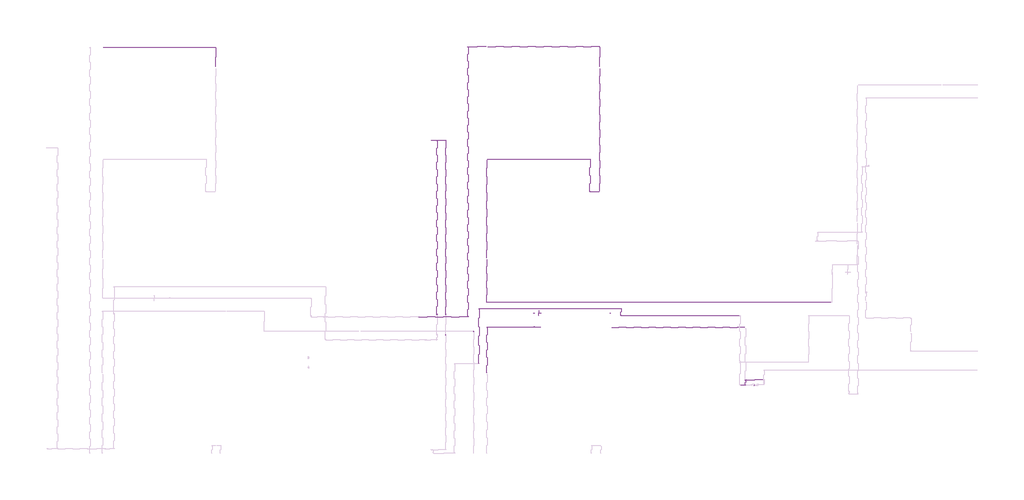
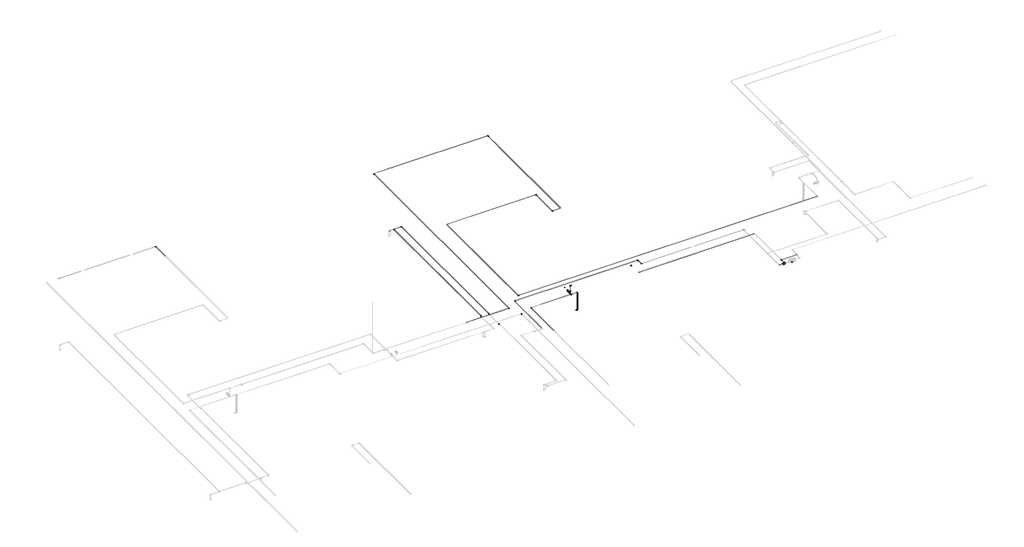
# One storey, part 4 of 6: 35 cable carrier segments, 29 cable carrier fittings, 2 alarms, 1 proxy.
"""IFC4 building model written with IfcOpenShell, lengths in millimetres."""

from ifc_helpers import new_model, si_unit, point, frame, frame_2d, origin, place, context, project, spatial, circle_curve, trimmed, segment, composite_curve, outline, extrude, transform, mapped, element, save
from components import alarm_4b7e8fd8, alarm_12v_26ah_d63bb5e3, electrical_equipment_0829c287, cable_carrier_fitting_69f1a801, cable_carrier_fitting_8122f9af, cable_carrier_fitting_8fd13dfc

model = new_model("IFC4")

# Units and contexts
model_context = context("Model", 3, world=origin())
ifc_project = project(units=[si_unit("LENGTHUNIT", "METRE", prefix="MILLI")], contexts=[model_context])

# Site, building, storey
site = spatial("IfcSite", under=ifc_project)
building = spatial("IfcBuilding", under=site)
storey = spatial("IfcBuildingStorey", under=building, Name="Подвальный этаж", Elevation=-3000.0)

# Alarms
placement = place(None, origin())
alarm_shape = alarm_4b7e8fd8(model_context)
element("IfcAlarm", 1, ObjectType="RBZ_Оповещатель_Световой_Рубеж_ОПОП1-R3(грань) : ОПОП 1-R3 \"Выход\"", at=placement, inside=storey, context=model_context, shape_type="MappedRepresentation", body=[
    mapped(alarm_shape, transform((-10172.3240021, 4344.6370105, -700.0), x_axis=(0.0, -1.0, 0.0), y_axis=(0.0, 0.0, 1.0), z_axis=(-1.0, 0.0, 0.0))),
])
alarm_12v_26ah_shape = alarm_12v_26ah_d63bb5e3(model_context)
element("IfcAlarm", 2, ObjectType="АКБ : 12V-7Ah", at=placement, inside=storey, context=model_context, shape_type="MappedRepresentation", body=[
    mapped(alarm_12v_26ah_shape, transform((1975.3958444, 264.6370105, -446.4079999), x_axis=(-1.0, 0.0, 0.0), y_axis=(0.0, -1.0, 0.0), z_axis=(0.0, 0.0, 1.0))),
])

# Proxy
electrical_equipment_shape = electrical_equipment_0829c287(model_context)
element("IfcBuildingElementProxy", 3, Name="RBZ_МодульРелейный_Рубеж_РМ-1К(4К) _прот.R3 : РМ-4К прот. R3", ObjectType="RBZ_МодульРелейный_Рубеж_РМ-1К(4К) _прот.R3 : РМ-4К прот. R3", at=placement, inside=storey, context=model_context, shape_type="MappedRepresentation", body=[
    mapped(electrical_equipment_shape, transform((1460.1759979, 281.887011, -423.0), x_axis=(1.0, 0.0, 0.0), y_axis=(0.0, 1.0, 0.0), z_axis=(0.0, 0.0, 1.0))),
])

# Cable carrier fittings
cable_carrier_fitting_shape = cable_carrier_fitting_69f1a801(model_context)
element("IfcCableCarrierFitting", 4, ObjectType="ADSK_Поворот_Минимальный размер : Неспецифицируемый", at=placement, inside=storey, context=model_context, shape_type="MappedRepresentation", body=[
    mapped(cable_carrier_fitting_shape, transform((-13842.3240021, 3324.6370105, -310.7), x_axis=(0.0, 1.0, 0.0), y_axis=(-1.0, 0.0, 0.0), z_axis=(0.0, 0.0, 1.0))),
])
element("IfcCableCarrierFitting", 5, ObjectType="ADSK_Поворот_Минимальный размер : Неспецифицируемый", at=placement, inside=storey, context=model_context, shape_type="MappedRepresentation", body=[
    mapped(cable_carrier_fitting_shape, transform((-14172.3240021, 4133.1922381, -310.7), x_axis=(1.0, 0.0, 0.0), y_axis=(0.0, 1.0, 0.0), z_axis=(0.0, 0.0, 1.0))),
])
element("IfcCableCarrierFitting", 6, ObjectType="ADSK_Поворот_Минимальный размер : Неспецифицируемый", at=placement, inside=storey, context=model_context, shape_type="MappedRepresentation", body=[
    mapped(cable_carrier_fitting_shape, transform((-10075.1241936, 4344.6370105, -700.0), x_axis=(1.0, 0.0, 0.0), y_axis=(0.0, 0.0, 1.0), z_axis=(0.0, -1.0, 0.0))),
])
element("IfcCableCarrierFitting", 7, ObjectType="ADSK_Поворот_Минимальный размер : Неспецифицируемый", at=placement, inside=storey, context=model_context, shape_type="MappedRepresentation", body=[
    mapped(cable_carrier_fitting_shape, transform((-10075.1241965, 3564.6370105, -1500.0), x_axis=(1.0, 0.0, 0.0), y_axis=(0.0, 0.0, 1.0), z_axis=(0.0, -1.0, 0.0))),
])
element("IfcCableCarrierFitting", 8, ObjectType="ADSK_Поворот_Минимальный размер : Неспецифицируемый", at=placement, inside=storey, context=model_context, shape_type="MappedRepresentation", body=[
    mapped(cable_carrier_fitting_shape, transform((-13092.3240021, 3564.6370105, -310.7), x_axis=(-1.0, 0.0, 0.0), y_axis=(0.0, -1.0, 0.0), z_axis=(0.0, 0.0, 1.0))),
])
element("IfcCableCarrierFitting", 9, ObjectType="ADSK_Поворот_Минимальный размер : Неспецифицируемый", at=placement, inside=storey, context=model_context, shape_type="MappedRepresentation", body=[
    mapped(cable_carrier_fitting_shape, transform((-10075.1241965, 3564.6370105, -310.7), x_axis=(0.0, 0.0, 1.0), y_axis=(-1.0, 0.0, 0.0), z_axis=(0.0, -1.0, 0.0))),
])
element("IfcCableCarrierFitting", 10, ObjectType="ADSK_Поворот_Минимальный размер : Неспецифицируемый", at=placement, inside=storey, context=model_context, shape_type="MappedRepresentation", body=[
    mapped(cable_carrier_fitting_shape, transform((-10462.3240021, 4344.6370105, -310.700209), x_axis=(-0.9999999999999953, 0.0, -9.651311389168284e-08), y_axis=(0.0, -1.0, 0.0), z_axis=(-9.651311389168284e-08, 0.0, 0.9999999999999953))),
])
element("IfcCableCarrierFitting", 11, ObjectType="ADSK_Поворот_Минимальный размер : Неспецифицируемый", at=placement, inside=storey, context=model_context, shape_type="MappedRepresentation", body=[
    mapped(cable_carrier_fitting_shape, transform((-6132.3240021, 4344.6370105, -310.699791), x_axis=(0.0, 0.9999999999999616, 2.773071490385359e-07), y_axis=(-0.9999999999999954, 0.0, -9.651313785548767e-08), z_axis=(-9.651313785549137e-08, -2.773071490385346e-07, 0.9999999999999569))),
])
element("IfcCableCarrierFitting", 12, ObjectType="ADSK_Поворот_Минимальный размер : Неспецифицируемый", at=placement, inside=storey, context=model_context, shape_type="MappedRepresentation", body=[
    mapped(cable_carrier_fitting_shape, transform((-28372.3240021, 19322.1370105, -310.7), x_axis=(0.0, 1.0, 0.0), y_axis=(-1.0, 0.0, 0.0), z_axis=(0.0, 0.0, 1.0))),
])
element("IfcCableCarrierFitting", 13, ObjectType="ADSK_Поворот_Минимальный размер : Неспецифицируемый", at=placement, inside=storey, context=model_context, shape_type="MappedRepresentation", body=[
    mapped(cable_carrier_fitting_shape, transform((-14172.3240021, 19368.6370105, -310.7), x_axis=(-1.0, 0.0, 0.0), y_axis=(0.0, -1.0, 0.0), z_axis=(0.0, 0.0, 1.0))),
])
element("IfcCableCarrierFitting", 14, ObjectType="ADSK_Поворот_Минимальный размер : Неспецифицируемый", at=placement, inside=storey, context=model_context, shape_type="MappedRepresentation", body=[
    mapped(cable_carrier_fitting_shape, transform((-6750.048085, 19368.6370105, -310.7), x_axis=(0.0, 1.0, 0.0), y_axis=(-1.0, 0.0, 0.0), z_axis=(0.0, 0.0, 1.0))),
])
element("IfcCableCarrierFitting", 15, ObjectType="ADSK_Поворот_Минимальный размер : Неспецифицируемый", at=placement, inside=storey, context=model_context, shape_type="MappedRepresentation", body=[
    mapped(cable_carrier_fitting_shape, transform((-7296.548085, 11184.6000551, -310.7), x_axis=(0.0, -1.0, 0.0), y_axis=(1.0, 0.0, 0.0), z_axis=(0.0, 0.0, 1.0))),
])
element("IfcCableCarrierFitting", 16, ObjectType="ADSK_Поворот_Минимальный размер : Неспецифицируемый", at=placement, inside=storey, context=model_context, shape_type="MappedRepresentation", body=[
    mapped(cable_carrier_fitting_shape, transform((-7296.548085, 13022.1370105, -310.7), x_axis=(0.0, 1.0, 0.0), y_axis=(-1.0, 0.0, 0.0), z_axis=(0.0, 0.0, 1.0))),
])
element("IfcCableCarrierFitting", 17, ObjectType="ADSK_Поворот_Минимальный размер : Неспецифицируемый", at=placement, inside=storey, context=model_context, shape_type="MappedRepresentation", body=[
    mapped(cable_carrier_fitting_shape, transform((-13110.048085, 4962.1370105, -310.7), x_axis=(0.0, -1.0, 0.0), y_axis=(1.0, 0.0, 0.0), z_axis=(0.0, 0.0, 1.0))),
])
element("IfcCableCarrierFitting", 18, ObjectType="ADSK_Поворот_Минимальный размер : Неспецифицируемый", at=placement, inside=storey, context=model_context, shape_type="MappedRepresentation", body=[
    mapped(cable_carrier_fitting_shape, transform((1460.1759979, 299.1370112, -310.7), x_axis=(0.0, 0.0, 1.0), y_axis=(0.0, 1.0, 0.0), z_axis=(-1.0, 0.0, 0.0))),
])
element("IfcCableCarrierFitting", 19, ObjectType="ADSK_Поворот_Минимальный размер : Неспецифицируемый", at=placement, inside=storey, context=model_context, shape_type="MappedRepresentation", body=[
    mapped(cable_carrier_fitting_shape, transform((-15921.6725748, 14089.6370105, -310.7), x_axis=(0.0, 1.0, 0.0), y_axis=(-1.0, 0.0, 0.0), z_axis=(0.0, 0.0, 1.0))),
])
element("IfcCableCarrierFitting", 20, ObjectType="ADSK_Поворот_Минимальный размер : Неспецифицируемый", at=placement, inside=storey, context=model_context, shape_type="MappedRepresentation", body=[
    mapped(cable_carrier_fitting_shape, transform((-15421.6240021, 14089.6370105, -310.7), x_axis=(0.0, 1.0, 0.0), y_axis=(-1.0, 0.0, 0.0), z_axis=(0.0, 0.0, 1.0))),
])
element("IfcCableCarrierFitting", 21, ObjectType="ADSK_Поворот_Минимальный размер : Неспецифицируемый", at=placement, inside=storey, context=model_context, shape_type="MappedRepresentation", body=[
    mapped(cable_carrier_fitting_shape, transform((-5552.3240021, 4204.6370105, -310.7), x_axis=(0.0, -1.0, 0.0), y_axis=(1.0, 0.0, 0.0), z_axis=(0.0, 0.0, 1.0))),
])
element("IfcCableCarrierFitting", 22, ObjectType="ADSK_Поворот_Минимальный размер : Неспецифицируемый", at=placement, inside=storey, context=model_context, shape_type="MappedRepresentation", body=[
    mapped(cable_carrier_fitting_shape, transform((-5552.3240021, 4604.6370105, -310.7), x_axis=(0.0, 1.0, 0.0), y_axis=(-1.0, 0.0, 0.0), z_axis=(0.0, 0.0, 1.0))),
])
element("IfcCableCarrierFitting", 23, ObjectType="ADSK_Поворот_Минимальный размер : Неспецифицируемый", at=placement, inside=storey, context=model_context, shape_type="MappedRepresentation", body=[
    mapped(cable_carrier_fitting_shape, transform((-13552.3240021, 4604.6370105, -310.7), x_axis=(-1.0, 0.0, 0.0), y_axis=(0.0, -1.0, 0.0), z_axis=(0.0, 0.0, 1.0))),
])
cable_carrier_fitting_2_shape = cable_carrier_fitting_8122f9af(model_context)
element("IfcCableCarrierFitting", 24, ObjectType="ADSK_Поворот_Минимальный размер : Неспецифицируемый", at=placement, inside=storey, context=model_context, shape_type="MappedRepresentation", body=[
    mapped(cable_carrier_fitting_2_shape, transform((-15921.6725748, 4309.6370105, -310.7), x_axis=(0.0, -1.0, 0.0), y_axis=(0.0, 0.0, -1.0), z_axis=(1.0, 0.0, 0.0))),
])
element("IfcCableCarrierFitting", 25, ObjectType="ADSK_Поворот_Минимальный размер : Неспецифицируемый", at=placement, inside=storey, context=model_context, shape_type="MappedRepresentation", body=[
    mapped(cable_carrier_fitting_2_shape, transform((-15921.6725748, 4270.3370105, -350.0), x_axis=(0.0, -0.7071067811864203, -0.7071067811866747), y_axis=(0.0, -0.7071067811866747, 0.7071067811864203), z_axis=(-1.0, 0.0, 0.0))),
])
element("IfcCableCarrierFitting", 26, ObjectType="ADSK_Поворот_Минимальный размер : Неспецифицируемый", at=placement, inside=storey, context=model_context, shape_type="MappedRepresentation", body=[
    mapped(cable_carrier_fitting_2_shape, transform((-15421.6240021, 4289.6370105, -310.7), x_axis=(0.0, -1.0, 0.0), y_axis=(0.0, 0.0, -1.0), z_axis=(1.0, 0.0, 0.0))),
])
element("IfcCableCarrierFitting", 27, ObjectType="ADSK_Поворот_Минимальный размер : Неспецифицируемый", at=placement, inside=storey, context=model_context, shape_type="MappedRepresentation", body=[
    mapped(cable_carrier_fitting_2_shape, transform((-15421.6240021, 4250.3370105, -350.0), x_axis=(0.0, -0.7071067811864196, -0.7071067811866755), y_axis=(0.0, -0.7071067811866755, 0.7071067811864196), z_axis=(-1.0, 0.0, 0.0))),
])
element("IfcCableCarrierFitting", 28, ObjectType="ADSK_Поворот_Минимальный размер : Неспецифицируемый", at=placement, inside=storey, context=model_context, shape_type="MappedRepresentation", body=[
    mapped(cable_carrier_fitting_2_shape, transform((-15421.6240021, 3149.6370105, -350.0), x_axis=(0.0, -1.0, 0.0), y_axis=(0.0, 0.0, 1.0), z_axis=(-1.0, 0.0, 0.0))),
])
element("IfcCableCarrierFitting", 29, ObjectType="ADSK_Поворот_Минимальный размер : Неспецифицируемый", at=placement, inside=storey, context=model_context, shape_type="MappedRepresentation", body=[
    mapped(cable_carrier_fitting_2_shape, transform((-15421.6240021, 3110.3370105, -310.7), x_axis=(0.0, -0.7071067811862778, 0.7071067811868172), y_axis=(0.0, -0.7071067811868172, -0.7071067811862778), z_axis=(1.0, 0.0, 0.0))),
])
cable_carrier_fitting_3_shape = cable_carrier_fitting_8fd13dfc(model_context)
element("IfcCableCarrierFitting", 30, ObjectType="ADSK_Тройник : ПВХ", at=placement, inside=storey, context=model_context, shape_type="MappedRepresentation", body=[
    mapped(cable_carrier_fitting_3_shape, transform((-10075.1241965, 4344.6370105, -310.7001716), x_axis=(-0.9999999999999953, 0.0, -9.651313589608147e-08), y_axis=(-9.651313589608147e-08, 0.0, 0.9999999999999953), z_axis=(0.0, 1.0, 0.0))),
])
element("IfcCableCarrierFitting", 31, ObjectType="ADSK_Тройник : ПВХ", at=placement, inside=storey, context=model_context, shape_type="MappedRepresentation", body=[
    mapped(cable_carrier_fitting_3_shape, transform((-10462.3240021, 3564.6370105, -310.7), x_axis=(-1.0, 0.0, 0.0), y_axis=(0.0, -1.0, 0.0), z_axis=(0.0, 0.0, 1.0))),
])
element("IfcCableCarrierFitting", 32, ObjectType="ADSK_Тройник : ПВХ", at=placement, inside=storey, context=model_context, shape_type="MappedRepresentation", body=[
    mapped(cable_carrier_fitting_3_shape, transform((1460.1759979, 587.1370105, -310.7), x_axis=(0.0, 1.0, 0.0), y_axis=(-1.0, 0.0, 0.0), z_axis=(0.0, 0.0, 1.0))),
])

# Cable carrier segments
element("IfcCableCarrierSegment", 33, ObjectType="Гофрированная труба", at=placement, inside=storey, context=model_context, shape_type="SweptSolid", body=[
    extrude(outline(composite_curve([segment(trimmed(circle_curve(frame_2d((19322.1370105, -310.7)), 10.0), [point((19332.1370105, -310.7))], [point((19322.1370105, -320.7))], False, "CARTESIAN"), True, "CONTINUOUS"), segment(trimmed(circle_curve(frame_2d((19322.1370105, -310.7)), 10.0), [point((19322.1370105, -320.7))], [point((19312.1370105, -310.7))], False, "CARTESIAN"), True, "CONTINUOUS"), segment(trimmed(circle_curve(frame_2d((19322.1370105, -310.7)), 10.0), [point((19312.1370105, -310.7))], [point((19322.1370105, -300.7))], False, "CARTESIAN"), True, "CONTINUOUS"), segment(trimmed(circle_curve(frame_2d((19322.1370105, -310.7)), 10.0), [point((19322.1370105, -300.7))], [point((19332.1370105, -310.7))], False, "CARTESIAN"), True, "CONTINUOUS")], self_intersect=False)), frame((-34685.8240021, 0.0, 0.0), z_axis=(1.0, 0.0, 0.0), x_axis=(0.0, 1.0, 0.0)), (0.0, 0.0, 1.0), 6292.5),
])
element("IfcCableCarrierSegment", 34, ObjectType="Гофрированная труба", at=placement, inside=storey, context=model_context, shape_type="SweptSolid", body=[
    extrude(outline(composite_curve([segment(trimmed(circle_curve(frame_2d((-310.7, -28372.3240021)), 10.0), [point((-310.7, -28382.3240021))], [point((-320.7, -28372.3240021))], False, "CARTESIAN"), True, "CONTINUOUS"), segment(trimmed(circle_curve(frame_2d((-310.7, -28372.3240021)), 10.0), [point((-320.7, -28372.3240021))], [point((-310.7, -28362.3240021))], False, "CARTESIAN"), True, "CONTINUOUS"), segment(trimmed(circle_curve(frame_2d((-310.7, -28372.3240021)), 10.0), [point((-310.7, -28362.3240021))], [point((-300.7, -28372.3240021))], False, "CARTESIAN"), True, "CONTINUOUS"), segment(trimmed(circle_curve(frame_2d((-310.7, -28372.3240021)), 10.0), [point((-300.7, -28372.3240021))], [point((-310.7, -28382.3240021))], False, "CARTESIAN"), True, "CONTINUOUS")], self_intersect=False)), frame((0.0, 18231.1000551, 0.0), z_axis=(0.0, 1.0, 0.0), x_axis=(0.0, 0.0, 1.0)), (0.0, 0.0, 1.0), 1070.0369555),
])
element("IfcCableCarrierSegment", 35, ObjectType="Гофрированная труба", at=placement, inside=storey, context=model_context, shape_type="SweptSolid", body=[
    extrude(outline(composite_curve([segment(trimmed(circle_curve(frame_2d((4133.1922381, -310.7)), 10.0), [point((4143.1922381, -310.7))], [point((4133.1922381, -320.7))], False, "CARTESIAN"), True, "CONTINUOUS"), segment(trimmed(circle_curve(frame_2d((4133.1922381, -310.7)), 10.0), [point((4133.1922381, -320.7))], [point((4123.1922381, -310.7))], False, "CARTESIAN"), True, "CONTINUOUS"), segment(trimmed(circle_curve(frame_2d((4133.1922381, -310.7)), 10.0), [point((4123.1922381, -310.7))], [point((4133.1922381, -300.7))], False, "CARTESIAN"), True, "CONTINUOUS"), segment(trimmed(circle_curve(frame_2d((4133.1922381, -310.7)), 10.0), [point((4133.1922381, -300.7))], [point((4143.1922381, -310.7))], False, "CARTESIAN"), True, "CONTINUOUS")], self_intersect=False)), frame((-16931.3240021, 0.0, 0.0), z_axis=(1.0, 0.0, 0.0), x_axis=(0.0, 1.0, 0.0)), (0.0, 0.0, 1.0), 2738.0),
])
element("IfcCableCarrierSegment", 36, ObjectType="Гофрированная труба", at=placement, inside=storey, context=model_context, shape_type="SweptSolid", body=[
    extrude(outline(composite_curve([segment(trimmed(circle_curve(frame_2d((19368.6370105, -310.7)), 10.0), [point((19358.6370105, -310.7))], [point((19368.6370105, -300.7))], False, "CARTESIAN"), True, "CONTINUOUS"), segment(trimmed(circle_curve(frame_2d((19368.6370105, -310.7)), 10.0), [point((19368.6370105, -300.7))], [point((19378.6370105, -310.7))], False, "CARTESIAN"), True, "CONTINUOUS"), segment(trimmed(circle_curve(frame_2d((19368.6370105, -310.7)), 10.0), [point((19378.6370105, -310.7))], [point((19368.6370105, -320.7))], False, "CARTESIAN"), True, "CONTINUOUS"), segment(trimmed(circle_curve(frame_2d((19368.6370105, -310.7)), 10.0), [point((19368.6370105, -320.7))], [point((19358.6370105, -310.7))], False, "CARTESIAN"), True, "CONTINUOUS")], self_intersect=False)), frame((-14151.3240021, 0.0, 0.0), z_axis=(1.0, 0.0, 0.0), x_axis=(0.0, 1.0, 0.0)), (0.0, 0.0, 1.0), 1012.5),
])
element("IfcCableCarrierSegment", 37, ObjectType="Гофрированная труба", at=placement, inside=storey, context=model_context, shape_type="SweptSolid", body=[
    extrude(outline(composite_curve([segment(trimmed(circle_curve(frame_2d((-310.7, -14172.3240021)), 10.0), [point((-310.7, -14182.3240021))], [point((-320.7, -14172.3240021))], False, "CARTESIAN"), True, "CONTINUOUS"), segment(trimmed(circle_curve(frame_2d((-310.7, -14172.3240021)), 10.0), [point((-320.7, -14172.3240021))], [point((-310.7, -14162.3240021))], False, "CARTESIAN"), True, "CONTINUOUS"), segment(trimmed(circle_curve(frame_2d((-310.7, -14172.3240021)), 10.0), [point((-310.7, -14162.3240021))], [point((-300.7, -14172.3240021))], False, "CARTESIAN"), True, "CONTINUOUS"), segment(trimmed(circle_curve(frame_2d((-310.7, -14172.3240021)), 10.0), [point((-300.7, -14172.3240021))], [point((-310.7, -14182.3240021))], False, "CARTESIAN"), True, "CONTINUOUS")], self_intersect=False)), frame((0.0, 4154.1922381, 0.0), z_axis=(0.0, 1.0, 0.0), x_axis=(0.0, 0.0, 1.0)), (0.0, 0.0, 1.0), 15193.4447724),
])
element("IfcCableCarrierSegment", 38, ObjectType="Гофрированная труба", at=placement, inside=storey, context=model_context, shape_type="SweptSolid", body=[
    extrude(outline(composite_curve([segment(trimmed(circle_curve(frame_2d((19368.6370105, -310.7)), 10.0), [point((19378.6370105, -310.7))], [point((19368.6370105, -320.7))], False, "CARTESIAN"), True, "CONTINUOUS"), segment(trimmed(circle_curve(frame_2d((19368.6370105, -310.7)), 10.0), [point((19368.6370105, -320.7))], [point((19358.6370105, -310.7))], False, "CARTESIAN"), True, "CONTINUOUS"), segment(trimmed(circle_curve(frame_2d((19368.6370105, -310.7)), 10.0), [point((19358.6370105, -310.7))], [point((19368.6370105, -300.7))], False, "CARTESIAN"), True, "CONTINUOUS"), segment(trimmed(circle_curve(frame_2d((19368.6370105, -310.7)), 10.0), [point((19368.6370105, -300.7))], [point((19378.6370105, -310.7))], False, "CARTESIAN"), True, "CONTINUOUS")], self_intersect=False)), frame((-13045.8240021, 0.0, 0.0), z_axis=(1.0, 0.0, 0.0), x_axis=(0.0, 1.0, 0.0)), (0.0, 0.0, 1.0), 6274.7759171),
])
element("IfcCableCarrierSegment", 39, ObjectType="Гофрированная труба", at=placement, inside=storey, context=model_context, shape_type="SweptSolid", body=[
    extrude(outline(composite_curve([segment(trimmed(circle_curve(frame_2d((-310.7, -6750.048085)), 10.0), [point((-310.7, -6740.048085))], [point((-300.7, -6750.048085))], False, "CARTESIAN"), True, "CONTINUOUS"), segment(trimmed(circle_curve(frame_2d((-310.7, -6750.048085)), 10.0), [point((-300.7, -6750.048085))], [point((-310.7, -6760.048085))], False, "CARTESIAN"), True, "CONTINUOUS"), segment(trimmed(circle_curve(frame_2d((-310.7, -6750.048085)), 10.0), [point((-310.7, -6760.048085))], [point((-320.7, -6750.048085))], False, "CARTESIAN"), True, "CONTINUOUS"), segment(trimmed(circle_curve(frame_2d((-310.7, -6750.048085)), 10.0), [point((-320.7, -6750.048085))], [point((-310.7, -6740.048085))], False, "CARTESIAN"), True, "CONTINUOUS")], self_intersect=False)), frame((0.0, 18231.1000551, 0.0), z_axis=(0.0, 1.0, 0.0), x_axis=(0.0, 0.0, 1.0)), (0.0, 0.0, 1.0), 1116.5369555),
])
element("IfcCableCarrierSegment", 40, ObjectType="Гофрированная труба", at=placement, inside=storey, context=model_context, shape_type="SweptSolid", body=[
    extrude(outline(composite_curve([segment(trimmed(circle_curve(frame_2d((-310.7, -6750.048085)), 10.0), [point((-310.7, -6740.048085))], [point((-300.7, -6750.048085))], False, "CARTESIAN"), True, "CONTINUOUS"), segment(trimmed(circle_curve(frame_2d((-310.7, -6750.048085)), 10.0), [point((-300.7, -6750.048085))], [point((-310.7, -6760.048085))], False, "CARTESIAN"), True, "CONTINUOUS"), segment(trimmed(circle_curve(frame_2d((-310.7, -6750.048085)), 10.0), [point((-310.7, -6760.048085))], [point((-320.7, -6750.048085))], False, "CARTESIAN"), True, "CONTINUOUS"), segment(trimmed(circle_curve(frame_2d((-310.7, -6750.048085)), 10.0), [point((-320.7, -6750.048085))], [point((-310.7, -6740.048085))], False, "CARTESIAN"), True, "CONTINUOUS")], self_intersect=False)), frame((0.0, 11231.1000551, 0.0), z_axis=(0.0, 1.0, 0.0), x_axis=(0.0, 0.0, 1.0)), (0.0, 0.0, 1.0), 6907.0),
])
element("IfcCableCarrierSegment", 41, ObjectType="Гофрированная труба", at=placement, inside=storey, context=model_context, shape_type="SweptSolid", body=[
    extrude(outline(composite_curve([segment(trimmed(circle_curve(frame_2d((11184.6000551, -310.7)), 10.0), [point((11174.6000551, -310.7))], [point((11184.6000551, -300.7))], False, "CARTESIAN"), True, "CONTINUOUS"), segment(trimmed(circle_curve(frame_2d((11184.6000551, -310.7)), 10.0), [point((11184.6000551, -300.7))], [point((11194.6000551, -310.7))], False, "CARTESIAN"), True, "CONTINUOUS"), segment(trimmed(circle_curve(frame_2d((11184.6000551, -310.7)), 10.0), [point((11194.6000551, -310.7))], [point((11184.6000551, -320.7))], False, "CARTESIAN"), True, "CONTINUOUS"), segment(trimmed(circle_curve(frame_2d((11184.6000551, -310.7)), 10.0), [point((11184.6000551, -320.7))], [point((11174.6000551, -310.7))], False, "CARTESIAN"), True, "CONTINUOUS")], self_intersect=False)), frame((-7275.548085, 0.0, 0.0), z_axis=(1.0, 0.0, 0.0), x_axis=(0.0, 1.0, 0.0)), (0.0, 0.0, 1.0), 479.0),
])
element("IfcCableCarrierSegment", 42, ObjectType="Гофрированная труба", at=placement, inside=storey, context=model_context, shape_type="SweptSolid", body=[
    extrude(outline(composite_curve([segment(trimmed(circle_curve(frame_2d((-310.7, -7296.548085)), 10.0), [point((-310.7, -7286.548085))], [point((-300.7, -7296.548085))], False, "CARTESIAN"), True, "CONTINUOUS"), segment(trimmed(circle_curve(frame_2d((-310.7, -7296.548085)), 10.0), [point((-300.7, -7296.548085))], [point((-310.7, -7306.548085))], False, "CARTESIAN"), True, "CONTINUOUS"), segment(trimmed(circle_curve(frame_2d((-310.7, -7296.548085)), 10.0), [point((-310.7, -7306.548085))], [point((-320.7, -7296.548085))], False, "CARTESIAN"), True, "CONTINUOUS"), segment(trimmed(circle_curve(frame_2d((-310.7, -7296.548085)), 10.0), [point((-320.7, -7296.548085))], [point((-310.7, -7286.548085))], False, "CARTESIAN"), True, "CONTINUOUS")], self_intersect=False)), frame((0.0, 11205.6000551, 0.0), z_axis=(0.0, 1.0, 0.0), x_axis=(0.0, 0.0, 1.0)), (0.0, 0.0, 1.0), 1795.5369555),
])
element("IfcCableCarrierSegment", 43, ObjectType="Гофрированная труба", at=placement, inside=storey, context=model_context, shape_type="SweptSolid", body=[
    extrude(outline(composite_curve([segment(trimmed(circle_curve(frame_2d((13022.1370105, -310.7)), 10.0), [point((13032.1370105, -310.7))], [point((13022.1370105, -320.7))], False, "CARTESIAN"), True, "CONTINUOUS"), segment(trimmed(circle_curve(frame_2d((13022.1370105, -310.7)), 10.0), [point((13022.1370105, -320.7))], [point((13012.1370105, -310.7))], False, "CARTESIAN"), True, "CONTINUOUS"), segment(trimmed(circle_curve(frame_2d((13022.1370105, -310.7)), 10.0), [point((13012.1370105, -310.7))], [point((13022.1370105, -300.7))], False, "CARTESIAN"), True, "CONTINUOUS"), segment(trimmed(circle_curve(frame_2d((13022.1370105, -310.7)), 10.0), [point((13022.1370105, -300.7))], [point((13032.1370105, -310.7))], False, "CARTESIAN"), True, "CONTINUOUS")], self_intersect=False)), frame((-13063.548085, 0.0, 0.0), z_axis=(1.0, 0.0, 0.0), x_axis=(0.0, 1.0, 0.0)), (0.0, 0.0, 1.0), 5746.0),
])
element("IfcCableCarrierSegment", 44, ObjectType="Гофрированная труба", at=placement, inside=storey, context=model_context, shape_type="SweptSolid", body=[
    extrude(outline(composite_curve([segment(trimmed(circle_curve(frame_2d((-310.7, -13110.048085)), 10.0), [point((-310.7, -13100.048085))], [point((-300.7, -13110.048085))], False, "CARTESIAN"), True, "CONTINUOUS"), segment(trimmed(circle_curve(frame_2d((-310.7, -13110.048085)), 10.0), [point((-300.7, -13110.048085))], [point((-310.7, -13120.048085))], False, "CARTESIAN"), True, "CONTINUOUS"), segment(trimmed(circle_curve(frame_2d((-310.7, -13110.048085)), 10.0), [point((-310.7, -13120.048085))], [point((-320.7, -13110.048085))], False, "CARTESIAN"), True, "CONTINUOUS"), segment(trimmed(circle_curve(frame_2d((-310.7, -13110.048085)), 10.0), [point((-320.7, -13110.048085))], [point((-310.7, -13100.048085))], False, "CARTESIAN"), True, "CONTINUOUS")], self_intersect=False)), frame((0.0, 7459.1000551, 0.0), z_axis=(0.0, 1.0, 0.0), x_axis=(0.0, 0.0, 1.0)), (0.0, 0.0, 1.0), 5516.5369555),
])
element("IfcCableCarrierSegment", 45, ObjectType="Гофрированная труба", at=placement, inside=storey, context=model_context, shape_type="SweptSolid", body=[
    extrude(outline(composite_curve([segment(trimmed(circle_curve(frame_2d((-310.7, -13110.048085)), 10.0), [point((-310.7, -13100.048085))], [point((-300.7, -13110.048085))], False, "CARTESIAN"), True, "CONTINUOUS"), segment(trimmed(circle_curve(frame_2d((-310.7, -13110.048085)), 10.0), [point((-300.7, -13110.048085))], [point((-310.7, -13120.048085))], False, "CARTESIAN"), True, "CONTINUOUS"), segment(trimmed(circle_curve(frame_2d((-310.7, -13110.048085)), 10.0), [point((-310.7, -13120.048085))], [point((-320.7, -13110.048085))], False, "CARTESIAN"), True, "CONTINUOUS"), segment(trimmed(circle_curve(frame_2d((-310.7, -13110.048085)), 10.0), [point((-320.7, -13110.048085))], [point((-310.7, -13100.048085))], False, "CARTESIAN"), True, "CONTINUOUS")], self_intersect=False)), frame((0.0, 4983.1370105, 0.0), z_axis=(0.0, 1.0, 0.0), x_axis=(0.0, 0.0, 1.0)), (0.0, 0.0, 1.0), 2382.9630445),
])
element("IfcCableCarrierSegment", 46, ObjectType="Гофрированная труба", at=placement, inside=storey, context=model_context, shape_type="SweptSolid", body=[
    extrude(outline(composite_curve([segment(trimmed(circle_curve(frame_2d((4962.1370105, -310.7)), 10.0), [point((4972.1370105, -310.7))], [point((4962.1370105, -320.7))], False, "CARTESIAN"), True, "CONTINUOUS"), segment(trimmed(circle_curve(frame_2d((4962.1370105, -310.7)), 10.0), [point((4962.1370105, -320.7))], [point((4952.1370105, -310.7))], False, "CARTESIAN"), True, "CONTINUOUS"), segment(trimmed(circle_curve(frame_2d((4962.1370105, -310.7)), 10.0), [point((4952.1370105, -310.7))], [point((4962.1370105, -300.7))], False, "CARTESIAN"), True, "CONTINUOUS"), segment(trimmed(circle_curve(frame_2d((4962.1370105, -310.7)), 10.0), [point((4962.1370105, -300.7))], [point((4972.1370105, -310.7))], False, "CARTESIAN"), True, "CONTINUOUS")], self_intersect=False)), frame((-13089.048085, 0.0, 0.0), z_axis=(1.0, 0.0, 0.0), x_axis=(0.0, 1.0, 0.0)), (0.0, 0.0, 1.0), 19405.7240829),
])
element("IfcCableCarrierSegment", 47, ObjectType="Гофрированная труба", at=placement, inside=storey, context=model_context, shape_type="SweptSolid", body=[
    extrude(outline(composite_curve([segment(trimmed(circle_curve(frame_2d((-310.7, -13092.3240021)), 10.0), [point((-310.7, -13102.3240021))], [point((-320.7, -13092.3240021))], False, "CARTESIAN"), True, "CONTINUOUS"), segment(trimmed(circle_curve(frame_2d((-310.7, -13092.3240021)), 10.0), [point((-320.7, -13092.3240021))], [point((-310.7, -13082.3240021))], False, "CARTESIAN"), True, "CONTINUOUS"), segment(trimmed(circle_curve(frame_2d((-310.7, -13092.3240021)), 10.0), [point((-310.7, -13082.3240021))], [point((-300.7, -13092.3240021))], False, "CARTESIAN"), True, "CONTINUOUS"), segment(trimmed(circle_curve(frame_2d((-310.7, -13092.3240021)), 10.0), [point((-300.7, -13092.3240021))], [point((-310.7, -13102.3240021))], False, "CARTESIAN"), True, "CONTINUOUS")], self_intersect=False)), frame((0.0, 991.1370105, 0.0), z_axis=(0.0, 1.0, 0.0), x_axis=(0.0, 0.0, 1.0)), (0.0, 0.0, 1.0), 2552.5),
])
element("IfcCableCarrierSegment", 48, ObjectType="Гофрированная труба", at=placement, inside=storey, context=model_context, shape_type="SweptSolid", body=[
    extrude(outline(composite_curve([segment(trimmed(circle_curve(frame_2d((3564.6370105, -310.7)), 10.0), [point((3554.6370105, -310.7))], [point((3564.6370105, -300.7))], False, "CARTESIAN"), True, "CONTINUOUS"), segment(trimmed(circle_curve(frame_2d((3564.6370105, -310.7)), 10.0), [point((3564.6370105, -300.7))], [point((3574.6370105, -310.7))], False, "CARTESIAN"), True, "CONTINUOUS"), segment(trimmed(circle_curve(frame_2d((3564.6370105, -310.7)), 10.0), [point((3574.6370105, -310.7))], [point((3564.6370105, -320.7))], False, "CARTESIAN"), True, "CONTINUOUS"), segment(trimmed(circle_curve(frame_2d((3564.6370105, -310.7)), 10.0), [point((3564.6370105, -320.7))], [point((3554.6370105, -310.7))], False, "CARTESIAN"), True, "CONTINUOUS")], self_intersect=False)), frame((-10432.3240021, 0.0, 0.0), z_axis=(1.0, 0.0, 0.0), x_axis=(0.0, 1.0, 0.0)), (0.0, 0.0, 1.0), 336.1998056),
])
element("IfcCableCarrierSegment", 49, ObjectType="Гофрированная труба", at=placement, inside=storey, context=model_context, shape_type="SweptSolid", body=[
    extrude(outline(composite_curve([segment(trimmed(circle_curve(frame_2d((3544.6370105, -310.7)), 10.0), [point((3534.6370105, -310.7))], [point((3544.6370105, -300.7))], False, "CARTESIAN"), True, "CONTINUOUS"), segment(trimmed(circle_curve(frame_2d((3544.6370105, -310.7)), 10.0), [point((3544.6370105, -300.7))], [point((3554.6370105, -310.7))], False, "CARTESIAN"), True, "CONTINUOUS"), segment(trimmed(circle_curve(frame_2d((3544.6370105, -310.7)), 10.0), [point((3554.6370105, -310.7))], [point((3544.6370105, -320.7))], False, "CARTESIAN"), True, "CONTINUOUS"), segment(trimmed(circle_curve(frame_2d((3544.6370105, -310.7)), 10.0), [point((3544.6370105, -320.7))], [point((3534.6370105, -310.7))], False, "CARTESIAN"), True, "CONTINUOUS")], self_intersect=False)), frame((-6085.8240021, 0.0, 0.0), z_axis=(1.0, 0.0, 0.0), x_axis=(0.0, 1.0, 0.0)), (0.0, 0.0, 1.0), 7499.5),
])
element("IfcCableCarrierSegment", 50, ObjectType="Гофрированная труба", at=placement, inside=storey, context=model_context, shape_type="SweptSolid", body=[
    extrude(outline(composite_curve([segment(trimmed(circle_curve(frame_2d((587.1370105, -310.7)), 10.0), [point((597.1370105, -310.7))], [point((587.1370105, -320.7))], False, "CARTESIAN"), True, "CONTINUOUS"), segment(trimmed(circle_curve(frame_2d((587.1370105, -310.7)), 10.0), [point((587.1370105, -320.7))], [point((577.1370105, -310.7))], False, "CARTESIAN"), True, "CONTINUOUS"), segment(trimmed(circle_curve(frame_2d((587.1370105, -310.7)), 10.0), [point((577.1370105, -310.7))], [point((587.1370105, -300.7))], False, "CARTESIAN"), True, "CONTINUOUS"), segment(trimmed(circle_curve(frame_2d((587.1370105, -310.7)), 10.0), [point((587.1370105, -300.7))], [point((597.1370105, -310.7))], False, "CARTESIAN"), True, "CONTINUOUS")], self_intersect=False)), frame((1490.1759979, 0.0, 0.0), z_axis=(1.0, 0.0, 0.0), x_axis=(0.0, 1.0, 0.0)), (0.0, 0.0, 1.0), 977.1508076),
])
element("IfcCableCarrierSegment", 51, ObjectType="Гофрированная труба", at=placement, inside=storey, context=model_context, shape_type="SweptSolid", body=[
    extrude(outline(composite_curve([segment(trimmed(circle_curve(frame_2d((4344.6370105, -700.0)), 10.0), [point((4334.6370105, -700.0))], [point((4344.6370105, -690.0))], False, "CARTESIAN"), True, "CONTINUOUS"), segment(trimmed(circle_curve(frame_2d((4344.6370105, -700.0)), 10.0), [point((4344.6370105, -690.0))], [point((4354.6370105, -700.0))], False, "CARTESIAN"), True, "CONTINUOUS"), segment(trimmed(circle_curve(frame_2d((4344.6370105, -700.0)), 10.0), [point((4354.6370105, -700.0))], [point((4344.6370105, -710.0))], False, "CARTESIAN"), True, "CONTINUOUS"), segment(trimmed(circle_curve(frame_2d((4344.6370105, -700.0)), 10.0), [point((4344.6370105, -710.0))], [point((4334.6370105, -700.0))], False, "CARTESIAN"), True, "CONTINUOUS")], self_intersect=False)), frame((-10172.3240021, 0.0, 0.0), z_axis=(1.0, 0.0, 0.0), x_axis=(0.0, 1.0, 0.0)), (0.0, 0.0, 1.0), 76.1998085),
])
element("IfcCableCarrierSegment", 52, ObjectType="Гофрированная труба", at=placement, inside=storey, context=model_context, shape_type="SweptSolid", body=[
    extrude(outline(composite_curve([segment(trimmed(circle_curve(frame_2d((-10075.1241936, 4344.6370105)), 10.0), [point((-10085.1241936, 4344.6370105))], [point((-10075.1241936, 4354.6370105))], False, "CARTESIAN"), True, "CONTINUOUS"), segment(trimmed(circle_curve(frame_2d((-10075.1241936, 4344.6370105)), 10.0), [point((-10075.1241936, 4354.6370105))], [point((-10065.1241936, 4344.6370105))], False, "CARTESIAN"), True, "CONTINUOUS"), segment(trimmed(circle_curve(frame_2d((-10075.1241936, 4344.6370105)), 10.0), [point((-10065.1241936, 4344.6370105))], [point((-10075.1241936, 4334.6370105))], False, "CARTESIAN"), True, "CONTINUOUS"), segment(trimmed(circle_curve(frame_2d((-10075.1241936, 4344.6370105)), 10.0), [point((-10075.1241936, 4334.6370105))], [point((-10085.1241936, 4344.6370105))], False, "CARTESIAN"), True, "CONTINUOUS")], self_intersect=False)), frame((0.0, 0.0, -679.0), z_axis=(0.0, 0.0, 1.0), x_axis=(1.0, 0.0, 0.0)), (0.0, 0.0, 1.0), 338.2998284),
])
element("IfcCableCarrierSegment", 53, ObjectType="Гофрированная труба", at=placement, inside=storey, context=model_context, shape_type="SweptSolid", body=[
    extrude(outline(composite_curve([segment(trimmed(circle_curve(frame_2d((3564.6370105, -1500.0)), 10.0), [point((3554.6370105, -1500.0))], [point((3564.6370105, -1490.0))], False, "CARTESIAN"), True, "CONTINUOUS"), segment(trimmed(circle_curve(frame_2d((3564.6370105, -1500.0)), 10.0), [point((3564.6370105, -1490.0))], [point((3574.6370105, -1500.0))], False, "CARTESIAN"), True, "CONTINUOUS"), segment(trimmed(circle_curve(frame_2d((3564.6370105, -1500.0)), 10.0), [point((3574.6370105, -1500.0))], [point((3564.6370105, -1510.0))], False, "CARTESIAN"), True, "CONTINUOUS"), segment(trimmed(circle_curve(frame_2d((3564.6370105, -1500.0)), 10.0), [point((3564.6370105, -1510.0))], [point((3554.6370105, -1500.0))], False, "CARTESIAN"), True, "CONTINUOUS")], self_intersect=False)), frame((-10172.3240021, 0.0, 0.0), z_axis=(1.0, 0.0, 0.0), x_axis=(0.0, 1.0, 0.0)), (0.0, 0.0, 1.0), 76.1998056),
])
element("IfcCableCarrierSegment", 54, ObjectType="Гофрированная труба", at=placement, inside=storey, context=model_context, shape_type="SweptSolid", body=[
    extrude(outline(composite_curve([segment(trimmed(circle_curve(frame_2d((-10075.1241965, 3564.6370105)), 10.0), [point((-10085.1241965, 3564.6370105))], [point((-10075.1241965, 3574.6370105))], False, "CARTESIAN"), True, "CONTINUOUS"), segment(trimmed(circle_curve(frame_2d((-10075.1241965, 3564.6370105)), 10.0), [point((-10075.1241965, 3574.6370105))], [point((-10065.1241965, 3564.6370105))], False, "CARTESIAN"), True, "CONTINUOUS"), segment(trimmed(circle_curve(frame_2d((-10075.1241965, 3564.6370105)), 10.0), [point((-10065.1241965, 3564.6370105))], [point((-10075.1241965, 3554.6370105))], False, "CARTESIAN"), True, "CONTINUOUS"), segment(trimmed(circle_curve(frame_2d((-10075.1241965, 3564.6370105)), 10.0), [point((-10075.1241965, 3554.6370105))], [point((-10085.1241965, 3564.6370105))], False, "CARTESIAN"), True, "CONTINUOUS")], self_intersect=False)), frame((0.0, 0.0, -1479.0), z_axis=(0.0, 0.0, 1.0), x_axis=(1.0, 0.0, 0.0)), (0.0, 0.0, 1.0), 1147.3),
])
element("IfcCableCarrierSegment", 55, ObjectType="Гофрированная труба", at=placement, inside=storey, context=model_context, shape_type="SweptSolid", body=[
    extrude(outline(composite_curve([segment(trimmed(circle_curve(frame_2d((3564.6370105, -310.7)), 10.0), [point((3554.6370105, -310.7))], [point((3564.6370105, -300.7))], False, "CARTESIAN"), True, "CONTINUOUS"), segment(trimmed(circle_curve(frame_2d((3564.6370105, -310.7)), 10.0), [point((3564.6370105, -300.7))], [point((3574.6370105, -310.7))], False, "CARTESIAN"), True, "CONTINUOUS"), segment(trimmed(circle_curve(frame_2d((3564.6370105, -310.7)), 10.0), [point((3574.6370105, -310.7))], [point((3564.6370105, -320.7))], False, "CARTESIAN"), True, "CONTINUOUS"), segment(trimmed(circle_curve(frame_2d((3564.6370105, -310.7)), 10.0), [point((3564.6370105, -320.7))], [point((3554.6370105, -310.7))], False, "CARTESIAN"), True, "CONTINUOUS")], self_intersect=False)), frame((-13071.3240021, 0.0, 0.0), z_axis=(1.0, 0.0, 0.0), x_axis=(0.0, 1.0, 0.0)), (0.0, 0.0, 1.0), 2579.0),
])
element("IfcCableCarrierSegment", 56, ObjectType="Гофрированная труба", at=placement, inside=storey, context=model_context, shape_type="SweptSolid", body=[
    extrude(outline(composite_curve([segment(trimmed(circle_curve(frame_2d((-310.7, 1460.1759979)), 10.0), [point((-310.7, 1450.1759979))], [point((-320.7, 1460.1759979))], False, "CARTESIAN"), True, "CONTINUOUS"), segment(trimmed(circle_curve(frame_2d((-310.7, 1460.1759979)), 10.0), [point((-320.7, 1460.1759979))], [point((-310.7, 1470.1759979))], False, "CARTESIAN"), True, "CONTINUOUS"), segment(trimmed(circle_curve(frame_2d((-310.7, 1460.1759979)), 10.0), [point((-310.7, 1470.1759979))], [point((-300.7, 1460.1759979))], False, "CARTESIAN"), True, "CONTINUOUS"), segment(trimmed(circle_curve(frame_2d((-310.7, 1460.1759979)), 10.0), [point((-300.7, 1460.1759979))], [point((-310.7, 1450.1759979))], False, "CARTESIAN"), True, "CONTINUOUS")], self_intersect=False)), frame((0.0, 320.1370112, 0.0), z_axis=(0.0, 1.0, 0.0), x_axis=(0.0, 0.0, 1.0)), (0.0, 0.0, 1.0), 236.9999993),
])
element("IfcCableCarrierSegment", 57, ObjectType="Гофрированная труба", at=placement, inside=storey, context=model_context, shape_type="SweptSolid", body=[
    extrude(outline(composite_curve([segment(trimmed(circle_curve(frame_2d((0.0, 10.0)), 10.0), [point((-10.0, 10.0))], [point((0.0, 20.0))], False, "CARTESIAN"), True, "CONTINUOUS"), segment(trimmed(circle_curve(frame_2d((0.0, 10.0)), 10.0), [point((0.0, 20.0))], [point((10.0, 10.0))], False, "CARTESIAN"), True, "CONTINUOUS"), segment(trimmed(circle_curve(frame_2d((0.0, 10.0)), 10.0), [point((10.0, 10.0))], [point((0.0, 0.0))], False, "CARTESIAN"), True, "CONTINUOUS"), segment(trimmed(circle_curve(frame_2d((0.0, 10.0)), 10.0), [point((0.0, 0.0))], [point((-10.0, 10.0))], False, "CARTESIAN"), True, "CONTINUOUS")], self_intersect=False)), frame((1460.1759979, 289.1370112, -339.0), z_axis=(0.0, -1.2046896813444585e-12, 1.0), x_axis=(1.0, 0.0, 0.0)), (0.0, 0.0, 1.0), 7.3),
])
element("IfcCableCarrierSegment", 58, ObjectType="Гофрированная труба", at=placement, inside=storey, context=model_context, shape_type="SweptSolid", body=[
    extrude(outline(composite_curve([segment(trimmed(circle_curve(frame_2d((14089.6370105, -310.7)), 10.0), [point((14079.6370105, -310.7))], [point((14089.6370105, -300.7))], False, "CARTESIAN"), True, "CONTINUOUS"), segment(trimmed(circle_curve(frame_2d((14089.6370105, -310.7)), 10.0), [point((14089.6370105, -300.7))], [point((14099.6370105, -310.7))], False, "CARTESIAN"), True, "CONTINUOUS"), segment(trimmed(circle_curve(frame_2d((14089.6370105, -310.7)), 10.0), [point((14099.6370105, -310.7))], [point((14089.6370105, -320.7))], False, "CARTESIAN"), True, "CONTINUOUS"), segment(trimmed(circle_curve(frame_2d((14089.6370105, -310.7)), 10.0), [point((14089.6370105, -320.7))], [point((14079.6370105, -310.7))], False, "CARTESIAN"), True, "CONTINUOUS")], self_intersect=False)), frame((-16228.5238077, 0.0, 0.0), z_axis=(1.0, 0.0, 0.0), x_axis=(0.0, 1.0, 0.0)), (0.0, 0.0, 1.0), 785.8998056),
])
element("IfcCableCarrierSegment", 59, ObjectType="Гофрированная труба", at=placement, inside=storey, context=model_context, shape_type="SweptSolid", body=[
    extrude(outline(composite_curve([segment(trimmed(circle_curve(frame_2d((-310.7, -15421.6240021)), 10.0), [point((-310.7, -15431.6240021))], [point((-320.7, -15421.6240021))], False, "CARTESIAN"), True, "CONTINUOUS"), segment(trimmed(circle_curve(frame_2d((-310.7, -15421.6240021)), 10.0), [point((-320.7, -15421.6240021))], [point((-310.7, -15411.6240021))], False, "CARTESIAN"), True, "CONTINUOUS"), segment(trimmed(circle_curve(frame_2d((-310.7, -15421.6240021)), 10.0), [point((-310.7, -15411.6240021))], [point((-300.7, -15421.6240021))], False, "CARTESIAN"), True, "CONTINUOUS"), segment(trimmed(circle_curve(frame_2d((-310.7, -15421.6240021)), 10.0), [point((-300.7, -15421.6240021))], [point((-310.7, -15431.6240021))], False, "CARTESIAN"), True, "CONTINUOUS")], self_intersect=False)), frame((0.0, 4298.9212818, 0.0), z_axis=(0.0, 1.0, 0.0), x_axis=(0.0, 0.0, 1.0)), (0.0, 0.0, 1.0), 9769.7157288),
])
element("IfcCableCarrierSegment", 60, ObjectType="Гофрированная труба", at=placement, inside=storey, context=model_context, shape_type="SweptSolid", body=[
    extrude(outline(composite_curve([segment(trimmed(circle_curve(frame_2d((-310.7, -15921.6725748)), 10.0), [point((-310.7, -15931.6725748))], [point((-320.7, -15921.6725748))], False, "CARTESIAN"), True, "CONTINUOUS"), segment(trimmed(circle_curve(frame_2d((-310.7, -15921.6725748)), 10.0), [point((-320.7, -15921.6725748))], [point((-310.7, -15911.6725748))], False, "CARTESIAN"), True, "CONTINUOUS"), segment(trimmed(circle_curve(frame_2d((-310.7, -15921.6725748)), 10.0), [point((-310.7, -15911.6725748))], [point((-300.7, -15921.6725748))], False, "CARTESIAN"), True, "CONTINUOUS"), segment(trimmed(circle_curve(frame_2d((-310.7, -15921.6725748)), 10.0), [point((-300.7, -15921.6725748))], [point((-310.7, -15931.6725748))], False, "CARTESIAN"), True, "CONTINUOUS")], self_intersect=False)), frame((0.0, 4318.9212818, 0.0), z_axis=(0.0, 1.0, 0.0), x_axis=(0.0, 0.0, 1.0)), (0.0, 0.0, 1.0), 9749.7157288),
])
element("IfcCableCarrierSegment", 61, ObjectType="Гофрированная труба", at=placement, inside=storey, context=model_context, shape_type="SweptSolid", body=[
    extrude(outline(composite_curve([segment(trimmed(circle_curve(frame_2d((0.0, -10.0000001)), 10.0), [point((-10.0, -10.0000001))], [point((0.0, 0.0))], False, "CARTESIAN"), True, "CONTINUOUS"), segment(trimmed(circle_curve(frame_2d((0.0, -10.0000001)), 10.0), [point((0.0, 0.0))], [point((10.0, -10.0000001))], False, "CARTESIAN"), True, "CONTINUOUS"), segment(trimmed(circle_curve(frame_2d((0.0, -10.0000001)), 10.0), [point((10.0, -10.0000001))], [point((0.0, -20.0))], False, "CARTESIAN"), True, "CONTINUOUS"), segment(trimmed(circle_curve(frame_2d((0.0, -10.0000001)), 10.0), [point((0.0, -20.0))], [point((-10.0, -10.0000001))], False, "CARTESIAN"), True, "CONTINUOUS")], self_intersect=False)), frame((-15921.6725748, 4283.9730495, -350.5060967), z_axis=(0.0, 0.7071067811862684, 0.7071067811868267), x_axis=(1.0, 0.0, 0.0)), (0.0, 0.0, 1.0), 37.0100505),
])
element("IfcCableCarrierSegment", 62, ObjectType="Гофрированная труба", at=placement, inside=storey, context=model_context, shape_type="SweptSolid", body=[
    extrude(outline(composite_curve([segment(trimmed(circle_curve(frame_2d((0.0, -10.0000001)), 10.0), [point((-10.0, -10.0000001))], [point((0.0, 0.0))], False, "CARTESIAN"), True, "CONTINUOUS"), segment(trimmed(circle_curve(frame_2d((0.0, -10.0000001)), 10.0), [point((0.0, 0.0))], [point((10.0, -10.0000001))], False, "CARTESIAN"), True, "CONTINUOUS"), segment(trimmed(circle_curve(frame_2d((0.0, -10.0000001)), 10.0), [point((10.0, -10.0000001))], [point((0.0, -20.0))], False, "CARTESIAN"), True, "CONTINUOUS"), segment(trimmed(circle_curve(frame_2d((0.0, -10.0000001)), 10.0), [point((0.0, -20.0))], [point((-10.0, -10.0000001))], False, "CARTESIAN"), True, "CONTINUOUS")], self_intersect=False)), frame((-15421.6240021, 4263.9730495, -350.5060967), z_axis=(0.0, 0.7071067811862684, 0.7071067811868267), x_axis=(1.0, 0.0, 0.0)), (0.0, 0.0, 1.0), 37.0100505),
])
element("IfcCableCarrierSegment", 63, ObjectType="Гофрированная труба", at=placement, inside=storey, context=model_context, shape_type="SweptSolid", body=[
    extrude(outline(composite_curve([segment(trimmed(circle_curve(frame_2d((4204.6370105, -310.7)), 10.0), [point((4194.6370105, -310.7))], [point((4204.6370105, -300.7))], False, "CARTESIAN"), True, "CONTINUOUS"), segment(trimmed(circle_curve(frame_2d((4204.6370105, -310.7)), 10.0), [point((4204.6370105, -300.7))], [point((4214.6370105, -310.7))], False, "CARTESIAN"), True, "CONTINUOUS"), segment(trimmed(circle_curve(frame_2d((4204.6370105, -310.7)), 10.0), [point((4214.6370105, -310.7))], [point((4204.6370105, -320.7))], False, "CARTESIAN"), True, "CONTINUOUS"), segment(trimmed(circle_curve(frame_2d((4204.6370105, -310.7)), 10.0), [point((4204.6370105, -320.7))], [point((4194.6370105, -310.7))], False, "CARTESIAN"), True, "CONTINUOUS")], self_intersect=False)), frame((-5531.3240021, 0.0, 0.0), z_axis=(1.0, 0.0, 0.0), x_axis=(0.0, 1.0, 0.0)), (0.0, 0.0, 1.0), 6658.0),
])
element("IfcCableCarrierSegment", 64, ObjectType="Гофрированная труба", at=placement, inside=storey, context=model_context, shape_type="SweptSolid", body=[
    extrude(outline(composite_curve([segment(trimmed(circle_curve(frame_2d((-310.7, -5552.3240021)), 10.0), [point((-310.7, -5542.3240021))], [point((-300.7, -5552.3240021))], False, "CARTESIAN"), True, "CONTINUOUS"), segment(trimmed(circle_curve(frame_2d((-310.7, -5552.3240021)), 10.0), [point((-300.7, -5552.3240021))], [point((-310.7, -5562.3240021))], False, "CARTESIAN"), True, "CONTINUOUS"), segment(trimmed(circle_curve(frame_2d((-310.7, -5552.3240021)), 10.0), [point((-310.7, -5562.3240021))], [point((-320.7, -5552.3240021))], False, "CARTESIAN"), True, "CONTINUOUS"), segment(trimmed(circle_curve(frame_2d((-310.7, -5552.3240021)), 10.0), [point((-320.7, -5552.3240021))], [point((-310.7, -5542.3240021))], False, "CARTESIAN"), True, "CONTINUOUS")], self_intersect=False)), frame((0.0, 4225.6370105, 0.0), z_axis=(0.0, 1.0, 0.0), x_axis=(0.0, 0.0, 1.0)), (0.0, 0.0, 1.0), 358.0),
])
element("IfcCableCarrierSegment", 65, ObjectType="Гофрированная труба", at=placement, inside=storey, context=model_context, shape_type="SweptSolid", body=[
    extrude(outline(composite_curve([segment(trimmed(circle_curve(frame_2d((4604.6370105, -310.7)), 10.0), [point((4614.6370105, -310.7))], [point((4604.6370105, -320.7))], False, "CARTESIAN"), True, "CONTINUOUS"), segment(trimmed(circle_curve(frame_2d((4604.6370105, -310.7)), 10.0), [point((4604.6370105, -320.7))], [point((4594.6370105, -310.7))], False, "CARTESIAN"), True, "CONTINUOUS"), segment(trimmed(circle_curve(frame_2d((4604.6370105, -310.7)), 10.0), [point((4594.6370105, -310.7))], [point((4604.6370105, -300.7))], False, "CARTESIAN"), True, "CONTINUOUS"), segment(trimmed(circle_curve(frame_2d((4604.6370105, -310.7)), 10.0), [point((4604.6370105, -300.7))], [point((4614.6370105, -310.7))], False, "CARTESIAN"), True, "CONTINUOUS")], self_intersect=False)), frame((-13531.3240021, 0.0, 0.0), z_axis=(1.0, 0.0, 0.0), x_axis=(0.0, 1.0, 0.0)), (0.0, 0.0, 1.0), 7958.0),
])
element("IfcCableCarrierSegment", 66, ObjectType="Гофрированная труба", at=placement, inside=storey, context=model_context, shape_type="SweptSolid", body=[
    extrude(outline(composite_curve([segment(trimmed(circle_curve(frame_2d((-310.7, -13552.3240021)), 10.0), [point((-310.7, -13562.3240021))], [point((-320.7, -13552.3240021))], False, "CARTESIAN"), True, "CONTINUOUS"), segment(trimmed(circle_curve(frame_2d((-310.7, -13552.3240021)), 10.0), [point((-320.7, -13552.3240021))], [point((-310.7, -13542.3240021))], False, "CARTESIAN"), True, "CONTINUOUS"), segment(trimmed(circle_curve(frame_2d((-310.7, -13552.3240021)), 10.0), [point((-310.7, -13542.3240021))], [point((-300.7, -13552.3240021))], False, "CARTESIAN"), True, "CONTINUOUS"), segment(trimmed(circle_curve(frame_2d((-310.7, -13552.3240021)), 10.0), [point((-300.7, -13552.3240021))], [point((-310.7, -13562.3240021))], False, "CARTESIAN"), True, "CONTINUOUS")], self_intersect=False)), frame((0.0, 1525.6370105, 0.0), z_axis=(0.0, 1.0, 0.0), x_axis=(0.0, 0.0, 1.0)), (0.0, 0.0, 1.0), 3058.0),
])
element("IfcCableCarrierSegment", 67, ObjectType="Гофрированная труба", at=placement, inside=storey, context=model_context, shape_type="SweptSolid", body=[
    extrude(outline(composite_curve([segment(trimmed(circle_curve(frame_2d((299.1370115, -381.0)), 10.0), [point((309.1370115, -381.0))], [point((299.1370115, -391.0))], False, "CARTESIAN"), True, "CONTINUOUS"), segment(trimmed(circle_curve(frame_2d((299.1370115, -381.0)), 10.0), [point((299.1370115, -391.0))], [point((289.1370115, -381.0))], False, "CARTESIAN"), True, "CONTINUOUS"), segment(trimmed(circle_curve(frame_2d((299.1370115, -381.0)), 10.0), [point((289.1370115, -381.0))], [point((299.1370115, -371.0))], False, "CARTESIAN"), True, "CONTINUOUS"), segment(trimmed(circle_curve(frame_2d((299.1370115, -381.0)), 10.0), [point((299.1370115, -371.0))], [point((309.1370115, -381.0))], False, "CARTESIAN"), True, "CONTINUOUS")], self_intersect=False)), frame((1168.6759979, 0.0, 0.0), z_axis=(1.0, 0.0, 0.0), x_axis=(0.0, 1.0, 0.0)), (0.0, 0.0, 1.0), 229.0),
])

save(model, "model.ifc")
